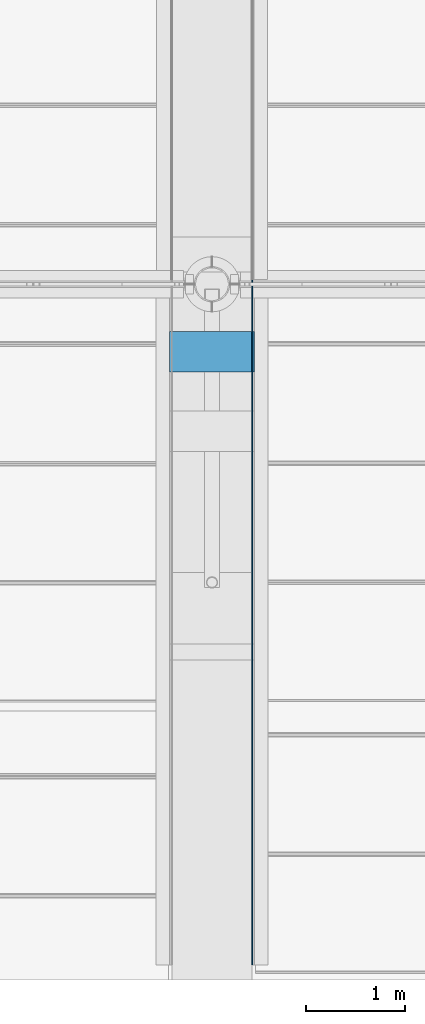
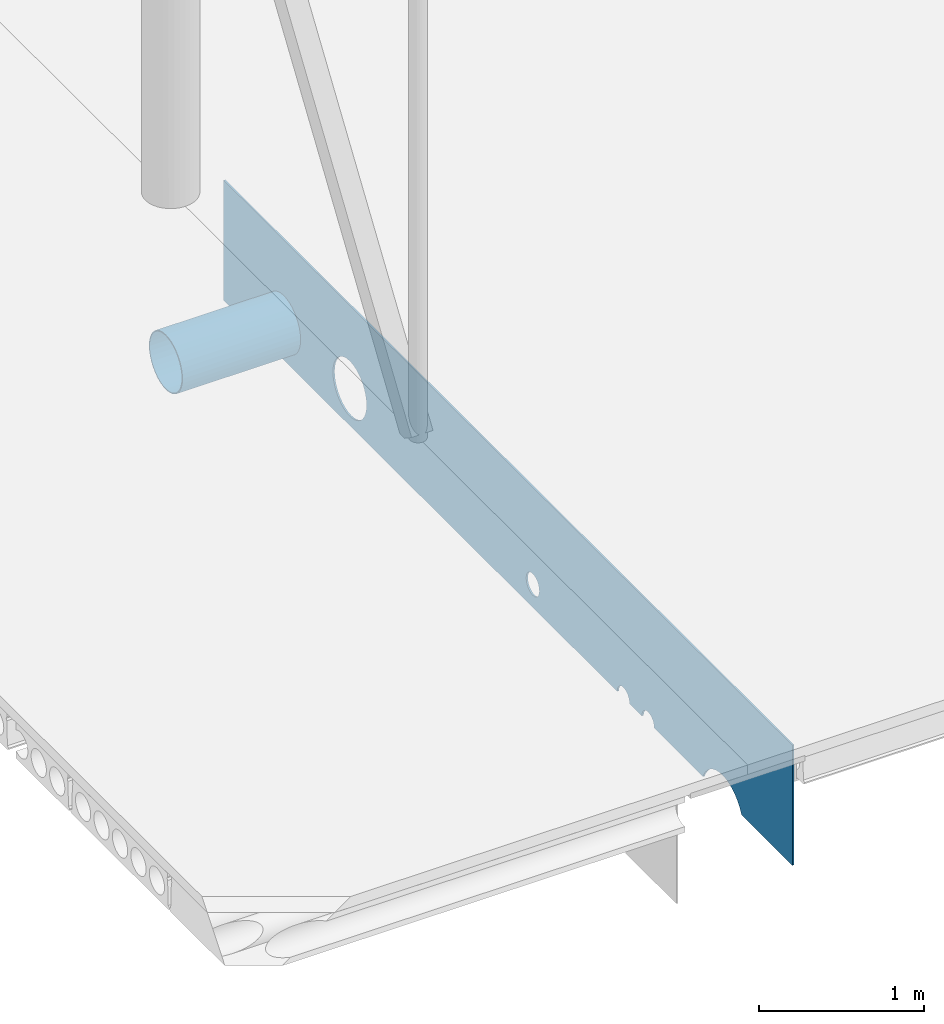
# One storey, part 4 of 21: 2 beams.
"""IFC2X3 building model written with IfcOpenShell, lengths in millimetres."""

from ifc_helpers import new_model, entity, si_unit, converted_unit, derived_unit, direction, frame, origin_with_axes, place, context, subcontext, project, spatial, faceted_brep, material, type_object, element, save


model = new_model("IFC2X3")

# Units and contexts
model_context = context("Model", 3, precision=0.01, world=frame((0.0, 4.29681676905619e-09, 0.0)), true_north=direction((4.01073788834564e-13, 1.0)))
plan_context = context("Plan", 3, precision=0.01, world=frame((0.0, 4.29681676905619e-09, 0.0)), true_north=direction((4.01073788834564e-13, 1.0)))
body_context = subcontext(model_context, "Body", "Model", "MODEL_VIEW")
ifc_project = project(units=[converted_unit("PLANEANGLEUNIT", "DEGREE", entity("IfcPositiveLengthMeasure", 0.0174532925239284), si_unit("PLANEANGLEUNIT", "RADIAN"), dimensions=[0, 0, 0, 0, 0, 0, 0]), si_unit("AREAUNIT", "SQUARE_METRE"), si_unit("LENGTHUNIT", "METRE", prefix="MILLI"), si_unit("MASSUNIT", "GRAM", prefix="KILO"), si_unit("POWERUNIT", "WATT"), si_unit("PRESSUREUNIT", "PASCAL", prefix="KILO"), si_unit("FORCEUNIT", "NEWTON", prefix="KILO"), si_unit("ELECTRICVOLTAGEUNIT", "VOLT"), si_unit("ELECTRICCURRENTUNIT", "AMPERE"), si_unit("THERMODYNAMICTEMPERATUREUNIT", "DEGREE_CELSIUS"), si_unit("TIMEUNIT", "SECOND"), si_unit("VOLUMEUNIT", "CUBIC_METRE"), derived_unit("LINEARVELOCITYUNIT", [(si_unit("LENGTHUNIT", "METRE"), 1), (si_unit("TIMEUNIT", "SECOND"), -1)]), derived_unit("VOLUMETRICFLOWRATEUNIT", [(si_unit("VOLUMEUNIT", "CUBIC_METRE"), 1), (si_unit("TIMEUNIT", "SECOND"), -1)]), derived_unit("THERMALTRANSMITTANCEUNIT", [(si_unit("POWERUNIT", "WATT"), 1), (si_unit("THERMODYNAMICTEMPERATUREUNIT", "KELVIN"), -1), (si_unit("AREAUNIT", "SQUARE_METRE"), -1)]), derived_unit("SOUNDPRESSUREUNIT", [(si_unit("PRESSUREUNIT", "PASCAL"), 1)])], contexts=[model_context, plan_context])

# Site, building, storey
site_placement = place(None, frame((0.0, -4.29681676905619e-09, 0.0), z_axis=(0.0, 0.0, 1.0), x_axis=(1.0, 0.0, 0.0)))
site = spatial("IfcSite", under=ifc_project, at=site_placement, Name="Gardermoen", CompositionType="ELEMENT")
building_placement = place(site_placement, frame((0.0, 4.29681676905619e-09, 0.0), z_axis=(0.0, 0.0, 1.0), x_axis=(1.0, 0.0, 0.0)))
building = spatial("IfcBuilding", under=site, at=building_placement, Name="TS", CompositionType="ELEMENT")
storey_placement = place(building_placement, origin_with_axes())
storey = spatial("IfcBuildingStorey", under=building, at=storey_placement, Name="F", CompositionType="ELEMENT", Elevation=0.0)

# Beams
ifc_material = material(Name="STEEL/S355")
beam_type_1 = type_object("IfcBeamType", Name="RØR406.4X6.3", PredefinedType="NOTDEFINED")
beam_1_placement = place(storey_placement, frame((718427.0, 440820.0, 210175.0), z_axis=(0.0, 0.0, 1.0), x_axis=(-0.999999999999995, -9.99999902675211e-08, 0.0)))
element("IfcBeam", 1, at=beam_1_placement, inside=storey, type_object=beam_type_1, material=ifc_material, Name="STÅLBJELKE", ObjectType="RØR406.4X6.3", context=body_context, shape_type="Brep", body=[
    faceted_brep([(0.0, -196.900000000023, 0.0), (0.0, -193.908646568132, 34.1913261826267), (854.0, -193.908646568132, 34.1913261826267), (854.0, -196.900000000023, 0.0), (0.0, -185.025477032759, 67.3437662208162), (854.0, -185.025477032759, 67.3437662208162), (0.0, -170.520402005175, 98.4500000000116), (854.0, -170.520402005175, 98.4500000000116), (0.0, -150.834150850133, 126.564880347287), (854.0, -150.834150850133, 126.564880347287), (0.0, -126.564880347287, 150.834150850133), (854.0, -126.564880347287, 150.834150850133), (0.0, -98.4500000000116, 170.520402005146), (854.0, -98.4500000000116, 170.520402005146), (0.0, -67.3437662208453, 185.025477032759), (854.0, -67.3437662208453, 185.025477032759), (0.0, -34.1913261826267, 193.908646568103), (854.0, -34.1913261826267, 193.908646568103), (0.0, 0.0, 196.899999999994), (854.0, 0.0, 196.899999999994), (0.0, 34.1913261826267, 193.908646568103), (854.0, 34.1913261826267, 193.908646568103), (0.0, 67.3437662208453, 185.025477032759), (854.0, 67.3437662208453, 185.025477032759), (0.0, 98.4500000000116, 170.520402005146), (854.0, 98.4500000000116, 170.520402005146), (0.0, 126.564880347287, 150.834150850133), (854.0, 126.564880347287, 150.834150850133), (0.0, 150.834150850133, 126.564880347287), (854.0, 150.834150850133, 126.564880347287), (0.0, 170.520402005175, 98.4500000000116), (854.0, 170.520402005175, 98.4500000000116), (0.0, 185.025477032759, 67.3437662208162), (854.0, 185.025477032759, 67.3437662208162), (0.0, 193.908646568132, 34.1913261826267), (854.0, 193.908646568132, 34.1913261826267), (0.0, 196.900000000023, 0.0), (854.0, 196.900000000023, 0.0), (0.0, 193.908646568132, -34.1913261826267), (854.0, 193.908646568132, -34.1913261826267), (0.0, 185.025477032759, -67.3437662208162), (854.0, 185.025477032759, -67.3437662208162), (0.0, 170.520402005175, -98.4500000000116), (854.0, 170.520402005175, -98.4500000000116), (0.0, 150.834150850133, -126.564880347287), (854.0, 150.834150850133, -126.564880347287), (0.0, 126.564880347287, -150.834150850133), (854.0, 126.564880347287, -150.834150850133), (0.0, 98.4500000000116, -170.520402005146), (854.0, 98.4500000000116, -170.520402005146), (0.0, 67.3437662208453, -185.025477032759), (854.0, 67.3437662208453, -185.025477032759), (0.0, 34.1913261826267, -193.908646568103), (854.0, 34.1913261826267, -193.908646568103), (0.0, 0.0, -196.899999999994), (854.0, 0.0, -196.899999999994), (0.0, -34.1913261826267, -193.908646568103), (854.0, -34.1913261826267, -193.908646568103), (0.0, -67.3437662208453, -185.025477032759), (854.0, -67.3437662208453, -185.025477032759), (0.0, -98.4500000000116, -170.520402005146), (854.0, -98.4500000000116, -170.520402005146), (0.0, -126.564880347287, -150.834150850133), (854.0, -126.564880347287, -150.834150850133), (0.0, -150.834150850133, -126.564880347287), (854.0, -150.834150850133, -126.564880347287), (0.0, -170.520402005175, -98.4500000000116), (854.0, -170.520402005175, -98.4500000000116), (0.0, -185.025477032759, -67.3437662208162), (854.0, -185.025477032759, -67.3437662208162), (0.0, -193.908646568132, -34.1913261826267), (854.0, -193.908646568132, -34.1913261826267), (0.0, -203.200000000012, 0.0), (0.0, -200.112935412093, -35.2853097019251), (854.0, -200.112935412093, -35.2853097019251), (854.0, -203.200000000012, 0.0), (0.0, -190.945540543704, -69.4984931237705), (854.0, -190.945540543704, -69.4984931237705), (0.0, -175.976362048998, -101.600000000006), (854.0, -175.976362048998, -101.600000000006), (0.0, -155.660230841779, -130.614442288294), (854.0, -155.660230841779, -130.614442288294), (0.0, -130.614442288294, -155.660230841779), (854.0, -130.614442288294, -155.660230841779), (0.0, -101.599999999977, -175.976362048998), (854.0, -101.599999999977, -175.976362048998), (0.0, -69.4984931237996, -190.945540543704), (854.0, -69.4984931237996, -190.945540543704), (0.0, -35.2853097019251, -200.112935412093), (854.0, -35.2853097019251, -200.112935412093), (0.0, 0.0, -203.200000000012), (854.0, 0.0, -203.200000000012), (0.0, 35.2853097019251, -200.112935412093), (854.0, 35.2853097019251, -200.112935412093), (0.0, 69.4984931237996, -190.945540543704), (854.0, 69.4984931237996, -190.945540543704), (0.0, 101.599999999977, -175.976362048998), (854.0, 101.599999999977, -175.976362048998), (0.0, 130.614442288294, -155.660230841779), (854.0, 130.614442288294, -155.660230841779), (0.0, 155.660230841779, -130.614442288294), (854.0, 155.660230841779, -130.614442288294), (0.0, 175.976362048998, -101.600000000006), (854.0, 175.976362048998, -101.600000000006), (0.0, 190.945540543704, -69.4984931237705), (854.0, 190.945540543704, -69.4984931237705), (0.0, 200.112935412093, -35.2853097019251), (854.0, 200.112935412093, -35.2853097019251), (0.0, 203.200000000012, 0.0), (854.0, 203.200000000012, 0.0), (0.0, 200.112935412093, 35.2853097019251), (854.0, 200.112935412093, 35.2853097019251), (0.0, 190.945540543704, 69.4984931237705), (854.0, 190.945540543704, 69.4984931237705), (0.0, 175.976362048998, 101.600000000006), (854.0, 175.976362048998, 101.600000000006), (0.0, 155.660230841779, 130.614442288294), (854.0, 155.660230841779, 130.614442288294), (0.0, 130.614442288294, 155.660230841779), (854.0, 130.614442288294, 155.660230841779), (0.0, 101.599999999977, 175.976362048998), (854.0, 101.599999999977, 175.976362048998), (0.0, 69.4984931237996, 190.945540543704), (854.0, 69.4984931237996, 190.945540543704), (0.0, 35.2853097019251, 200.112935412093), (854.0, 35.2853097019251, 200.112935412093), (0.0, 0.0, 203.200000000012), (854.0, 0.0, 203.200000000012), (0.0, -35.2853097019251, 200.112935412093), (854.0, -35.2853097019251, 200.112935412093), (0.0, -69.4984931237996, 190.945540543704), (854.0, -69.4984931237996, 190.945540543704), (0.0, -101.599999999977, 175.976362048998), (854.0, -101.599999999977, 175.976362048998), (0.0, -130.614442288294, 155.660230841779), (854.0, -130.614442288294, 155.660230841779), (0.0, -155.660230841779, 130.614442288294), (854.0, -155.660230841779, 130.614442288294), (0.0, -175.976362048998, 101.600000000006), (854.0, -175.976362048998, 101.600000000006), (0.0, -190.945540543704, 69.4984931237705), (854.0, -190.945540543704, 69.4984931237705), (0.0, -200.112935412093, 35.2853097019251), (854.0, -200.112935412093, 35.2853097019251)], [[[0, 1, 2, 3]], [[1, 4, 5, 2]], [[4, 6, 7, 5]], [[6, 8, 9, 7]], [[8, 10, 11, 9]], [[10, 12, 13, 11]], [[12, 14, 15, 13]], [[14, 16, 17, 15]], [[16, 18, 19, 17]], [[18, 20, 21, 19]], [[20, 22, 23, 21]], [[22, 24, 25, 23]], [[24, 26, 27, 25]], [[26, 28, 29, 27]], [[28, 30, 31, 29]], [[30, 32, 33, 31]], [[32, 34, 35, 33]], [[34, 36, 37, 35]], [[36, 38, 39, 37]], [[38, 40, 41, 39]], [[40, 42, 43, 41]], [[42, 44, 45, 43]], [[44, 46, 47, 45]], [[46, 48, 49, 47]], [[48, 50, 51, 49]], [[50, 52, 53, 51]], [[52, 54, 55, 53]], [[54, 56, 57, 55]], [[56, 58, 59, 57]], [[58, 60, 61, 59]], [[60, 62, 63, 61]], [[62, 64, 65, 63]], [[64, 66, 67, 65]], [[66, 68, 69, 67]], [[68, 70, 71, 69]], [[70, 0, 3, 71]], [[72, 73, 74, 75]], [[73, 76, 77, 74]], [[76, 78, 79, 77]], [[78, 80, 81, 79]], [[80, 82, 83, 81]], [[82, 84, 85, 83]], [[84, 86, 87, 85]], [[86, 88, 89, 87]], [[88, 90, 91, 89]], [[90, 92, 93, 91]], [[92, 94, 95, 93]], [[94, 96, 97, 95]], [[96, 98, 99, 97]], [[98, 100, 101, 99]], [[100, 102, 103, 101]], [[102, 104, 105, 103]], [[104, 106, 107, 105]], [[106, 108, 109, 107]], [[108, 110, 111, 109]], [[110, 112, 113, 111]], [[112, 114, 115, 113]], [[114, 116, 117, 115]], [[116, 118, 119, 117]], [[118, 120, 121, 119]], [[120, 122, 123, 121]], [[122, 124, 125, 123]], [[124, 126, 127, 125]], [[126, 128, 129, 127]], [[128, 130, 131, 129]], [[130, 132, 133, 131]], [[132, 134, 135, 133]], [[134, 136, 137, 135]], [[136, 138, 139, 137]], [[138, 140, 141, 139]], [[140, 142, 143, 141]], [[142, 72, 75, 143]], [[77, 79, 81, 83, 85, 87, 89, 91, 93, 95, 97, 99, 101, 103, 105, 107, 109, 111, 113, 115, 117, 119, 121, 123, 125, 127, 129, 131, 133, 135, 137, 139, 141, 143, 75, 74], [5, 7, 9, 11, 13, 15, 17, 19, 21, 23, 25, 27, 29, 31, 33, 35, 37, 39, 41, 43, 45, 47, 49, 51, 53, 55, 57, 59, 61, 63, 65, 67, 69, 71, 3, 2]], [[142, 140, 138, 136, 134, 132, 130, 128, 126, 124, 122, 120, 118, 116, 114, 112, 110, 108, 106, 104, 102, 100, 98, 96, 94, 92, 90, 88, 86, 84, 82, 80, 78, 76, 73, 72], [70, 68, 66, 64, 62, 60, 58, 56, 54, 52, 50, 48, 46, 44, 42, 40, 38, 36, 34, 32, 30, 28, 26, 24, 22, 20, 18, 16, 14, 12, 10, 8, 6, 4, 1, 0]]]),
])
beam_type_2 = type_object("IfcBeamType", Name="1470*12", PredefinedType="NOTDEFINED")
beam_2_placement = place(storey_placement, frame((718406.0, 434650.0, 210055.0), z_axis=(0.0, 0.0, 1.0), x_axis=(0.0, 1.0, 0.0)))
element("IfcBeam", 2, at=beam_2_placement, inside=storey, type_object=beam_type_2, Name="STÅLBJELKE", ObjectType="1470*12", context=body_context, shape_type="Brep", body=[
    faceted_brep([(6361.69729464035, -6.0, 50.2278907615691), (6361.69729464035, 6.0, 50.2278907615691), (6370.90078161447, 6.0, 84.5757717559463), (6370.90078161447, -6.0, 84.5757717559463), (6374.0, 6.0, 120.0), (6374.0, -6.0, 120.0), (6370.90078161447, 6.0, 155.424228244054), (6370.90078161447, -6.0, 155.424228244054), (6361.69729464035, 6.0, 189.772109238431), (6361.69729464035, -6.0, 189.772109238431), (6346.66918237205, 6.0, 222.0), (6346.66918237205, -6.0, 222.0), (6326.27306639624, 6.0, 251.128672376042), (6326.27306639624, -6.0, 251.128672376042), (6301.12867237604, 6.0, 276.273066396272), (6301.12867237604, -6.0, 276.273066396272), (6272.0, 6.0, 296.669182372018), (6272.0, -6.0, 296.669182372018), (6239.77210923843, 6.0, 311.697294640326), (6239.77210923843, -6.0, 311.697294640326), (6205.42422824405, 6.0, 320.900781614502), (6205.42422824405, -6.0, 320.900781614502), (6170.0, 6.0, 324.0), (6170.0, -6.0, 324.0), (6134.57577175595, 6.0, 320.900781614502), (6134.57577175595, -6.0, 320.900781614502), (6100.22789076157, 6.0, 311.697294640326), (6100.22789076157, -6.0, 311.697294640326), (6068.0, 6.0, 296.669182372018), (6068.0, -6.0, 296.669182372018), (6038.87132762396, 6.0, 276.273066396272), (6038.87132762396, -6.0, 276.273066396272), (6013.72693360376, 6.0, 251.128672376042), (6013.72693360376, -6.0, 251.128672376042), (5993.33081762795, 6.0, 222.0), (5993.33081762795, -6.0, 222.0), (5978.30270535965, 6.0, 189.772109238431), (5978.30270535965, -6.0, 189.772109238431), (5969.09921838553, 6.0, 155.424228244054), (5969.09921838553, -6.0, 155.424228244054), (5966.0, 6.0, 120.0), (5966.0, -6.0, 120.0), (5969.09921838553, 6.0, 84.5757717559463), (5969.09921838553, -6.0, 84.5757717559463), (5978.30270535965, 6.0, 50.2278907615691), (5978.30270535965, -6.0, 50.2278907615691), (5993.33081762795, 6.0, 18.0), (5993.33081762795, -6.0, 18.0), (6013.72693360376, 6.0, -11.1286723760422), (6013.72693360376, -6.0, -11.1286723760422), (6038.87132762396, 6.0, -36.273066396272), (6038.87132762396, -6.0, -36.273066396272), (6068.0, 6.0, -56.6691823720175), (6068.0, -6.0, -56.6691823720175), (6100.22789076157, 6.0, -71.6972946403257), (6100.22789076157, -6.0, -71.6972946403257), (6134.57577175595, 6.0, -80.9007816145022), (6134.57577175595, -6.0, -80.9007816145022), (6170.0, 6.0, -84.0), (6170.0, -6.0, -84.0), (6205.42422824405, 6.0, -80.9007816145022), (6205.42422824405, -6.0, -80.9007816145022), (6239.77210923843, 6.0, -71.6972946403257), (6239.77210923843, -6.0, -71.6972946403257), (6272.0, 6.0, -56.6691823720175), (6272.0, -6.0, -56.6691823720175), (6301.12867237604, 6.0, -36.273066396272), (6301.12867237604, -6.0, -36.273066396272), (6326.27306639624, 6.0, -11.1286723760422), (6326.27306639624, -6.0, -11.1286723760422), (6346.66918237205, 6.0, 18.0), (6346.66918237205, -6.0, 18.0), (6900.0, 6.0, 735.0), (6900.0, -6.0, 735.0), (0.0, -6.0, 735.0), (0.0, 6.0, 735.0), (0.0, -6.0, -155.0), (0.0, 6.0, -155.0), (6900.0, 6.0, -155.0), (6900.0, -6.0, -155.0), (616.262191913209, 6.0, -155.0), (616.262191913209, -6.0, -155.0), (622.793336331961, -6.0, -139.23242256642), (622.793336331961, 6.0, -139.23242256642), (643.700666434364, -6.0, -105.114760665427), (643.700666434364, 6.0, -105.114760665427), (669.687770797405, -6.0, -74.6877707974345), (669.687770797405, 6.0, -74.6877707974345), (700.114760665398, -6.0, -48.7006664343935), (700.114760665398, 6.0, -48.7006664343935), (734.232422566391, -6.0, -27.7933363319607), (734.232422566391, 6.0, -27.7933363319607), (771.200666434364, -6.0, -12.4805883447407), (771.200666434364, 6.0, -12.4805883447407), (810.109211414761, -6.0, -3.13947314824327), (810.109211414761, 6.0, -3.13947314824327), (850.0, -6.0, 0.0), (850.0, 6.0, 0.0), (889.890788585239, -6.0, -3.13947314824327), (889.890788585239, 6.0, -3.13947314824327), (928.799333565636, -6.0, -12.4805883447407), (928.799333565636, 6.0, -12.4805883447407), (965.767577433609, -6.0, -27.7933363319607), (965.767577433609, 6.0, -27.7933363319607), (999.885239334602, -6.0, -48.7006664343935), (999.885239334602, 6.0, -48.7006664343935), (1030.31222920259, -6.0, -74.6877707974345), (1030.31222920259, 6.0, -74.6877707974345), (1056.29933356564, -6.0, -105.114760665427), (1056.29933356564, 6.0, -105.114760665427), (1077.20666366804, -6.0, -139.23242256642), (1077.20666366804, 6.0, -139.23242256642), (1083.73780808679, -6.0, -155.0), (1083.73780808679, 6.0, -155.0), (1825.0, -6.0, -155.0), (1825.0, 6.0, -155.0), (1822.44443697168, 6.0, -135.588571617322), (1822.44443697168, -6.0, -135.588571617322), (1677.55556302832, -6.0, -135.588571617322), (1677.55556302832, 6.0, -135.588571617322), (1675.0, 6.0, -155.0), (1675.0, -6.0, -155.0), (1685.04809471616, -6.0, -117.5), (1685.04809471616, 6.0, -117.5), (1696.966991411, -6.0, -101.966991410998), (1696.966991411, 6.0, -101.966991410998), (1712.5, -6.0, -90.0480947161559), (1712.5, 6.0, -90.0480947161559), (1730.58857161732, -6.0, -82.5555630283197), (1730.58857161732, 6.0, -82.5555630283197), (1750.0, -6.0, -80.0), (1750.0, 6.0, -80.0), (1769.41142838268, -6.0, -82.5555630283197), (1769.41142838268, 6.0, -82.5555630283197), (1787.5, -6.0, -90.0480947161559), (1787.5, 6.0, -90.0480947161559), (1803.033008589, -6.0, -101.966991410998), (1803.033008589, 6.0, -101.966991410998), (1814.95190528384, -6.0, -117.5), (1814.95190528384, 6.0, -117.5), (2125.0, -6.0, -155.0), (2125.0, 6.0, -155.0), (2122.44443697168, 6.0, -135.588571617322), (2122.44443697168, -6.0, -135.588571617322), (1977.55556302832, -6.0, -135.588571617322), (1977.55556302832, 6.0, -135.588571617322), (1975.0, 6.0, -155.0), (1975.0, -6.0, -155.0), (1985.04809471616, -6.0, -117.5), (1985.04809471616, 6.0, -117.5), (1996.966991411, -6.0, -101.966991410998), (1996.966991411, 6.0, -101.966991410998), (2012.5, -6.0, -90.0480947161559), (2012.5, 6.0, -90.0480947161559), (2030.58857161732, -6.0, -82.5555630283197), (2030.58857161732, 6.0, -82.5555630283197), (2050.0, -6.0, -80.0), (2050.0, 6.0, -80.0), (2069.41142838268, -6.0, -82.5555630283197), (2069.41142838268, 6.0, -82.5555630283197), (2087.5, -6.0, -90.0480947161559), (2087.5, 6.0, -90.0480947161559), (2103.033008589, -6.0, -101.966991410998), (2103.033008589, 6.0, -101.966991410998), (2114.95190528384, -6.0, -117.5), (2114.95190528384, 6.0, -117.5), (3230.0, -6.0, 15.0), (3230.0, 6.0, 15.0), (3227.2740661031, 6.0, 35.7055236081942), (3227.2740661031, -6.0, 35.7055236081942), (3227.2740661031, -6.0, -5.7055236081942), (3227.2740661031, 6.0, -5.7055236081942), (3219.28203230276, -6.0, -25.0), (3219.28203230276, 6.0, -25.0), (3206.5685424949, -6.0, -41.5685424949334), (3206.5685424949, 6.0, -41.5685424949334), (3190.0, -6.0, -54.2820323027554), (3190.0, 6.0, -54.2820323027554), (3170.70552360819, -6.0, -62.2740661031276), (3170.70552360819, 6.0, -62.2740661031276), (3150.0, -6.0, -65.0), (3150.0, 6.0, -65.0), (3129.29447639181, -6.0, -62.2740661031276), (3129.29447639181, 6.0, -62.2740661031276), (3110.0, -6.0, -54.2820323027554), (3110.0, 6.0, -54.2820323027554), (3093.4314575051, -6.0, -41.5685424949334), (3093.4314575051, 6.0, -41.5685424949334), (3080.71796769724, -6.0, -25.0), (3080.71796769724, 6.0, -25.0), (3072.7259338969, -6.0, -5.7055236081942), (3072.7259338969, 6.0, -5.7055236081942), (3070.0, -6.0, 15.0), (3070.0, 6.0, 15.0), (3072.7259338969, -6.0, 35.7055236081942), (3072.7259338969, 6.0, 35.7055236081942), (3080.71796769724, -6.0, 55.0), (3080.71796769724, 6.0, 55.0), (3093.4314575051, -6.0, 71.5685424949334), (3093.4314575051, 6.0, 71.5685424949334), (3110.0, -6.0, 84.2820323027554), (3110.0, 6.0, 84.2820323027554), (3129.29447639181, -6.0, 92.2740661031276), (3129.29447639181, 6.0, 92.2740661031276), (3150.0, -6.0, 95.0), (3150.0, 6.0, 95.0), (3170.70552360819, -6.0, 92.2740661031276), (3170.70552360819, 6.0, 92.2740661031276), (3190.0, -6.0, 84.2820323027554), (3190.0, 6.0, 84.2820323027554), (3206.5685424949, -6.0, 71.5685424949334), (3206.5685424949, 6.0, 71.5685424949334), (3219.28203230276, -6.0, 55.0), (3219.28203230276, 6.0, 55.0), (5570.90078161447, -6.0, 84.5757717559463), (5574.0, -6.0, 120.0), (5570.90078161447, -6.0, 155.424228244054), (5561.69729464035, -6.0, 189.772109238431), (5546.66918237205, -6.0, 222.0), (5526.27306639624, -6.0, 251.128672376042), (5501.12867237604, -6.0, 276.273066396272), (5472.0, -6.0, 296.669182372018), (5439.77210923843, -6.0, 311.697294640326), (5405.42422824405, -6.0, 320.900781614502), (5370.0, -6.0, 324.0), (5334.57577175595, -6.0, 320.900781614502), (5300.22789076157, -6.0, 311.697294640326), (5268.0, -6.0, 296.669182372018), (5238.87132762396, -6.0, 276.273066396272), (5213.72693360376, -6.0, 251.128672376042), (5193.33081762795, -6.0, 222.0), (5178.30270535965, -6.0, 189.772109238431), (5169.09921838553, -6.0, 155.424228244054), (5166.0, -6.0, 120.0), (5169.09921838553, -6.0, 84.5757717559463), (5178.30270535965, -6.0, 50.2278907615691), (5193.33081762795, -6.0, 18.0), (5213.72693360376, -6.0, -11.1286723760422), (5238.87132762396, -6.0, -36.273066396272), (5268.0, -6.0, -56.6691823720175), (5300.22789076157, -6.0, -71.6972946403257), (5334.57577175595, -6.0, -80.9007816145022), (5370.0, -6.0, -84.0), (5405.42422824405, -6.0, -80.9007816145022), (5439.77210923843, -6.0, -71.6972946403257), (5472.0, -6.0, -56.6691823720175), (5501.12867237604, -6.0, -36.273066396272), (5526.27306639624, -6.0, -11.1286723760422), (5546.66918237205, -6.0, 18.0), (5561.69729464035, -6.0, 50.2278907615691), (5570.90078161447, 6.0, 155.424228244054), (5561.69729464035, 6.0, 189.772109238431), (5574.0, 6.0, 120.0), (5570.90078161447, 6.0, 84.5757717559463), (5561.69729464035, 6.0, 50.2278907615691), (5546.66918237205, 6.0, 18.0), (5526.27306639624, 6.0, -11.1286723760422), (5501.12867237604, 6.0, -36.273066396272), (5472.0, 6.0, -56.6691823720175), (5439.77210923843, 6.0, -71.6972946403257), (5405.42422824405, 6.0, -80.9007816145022), (5370.0, 6.0, -84.0), (5334.57577175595, 6.0, -80.9007816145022), (5300.22789076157, 6.0, -71.6972946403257), (5268.0, 6.0, -56.6691823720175), (5238.87132762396, 6.0, -36.273066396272), (5213.72693360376, 6.0, -11.1286723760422), (5193.33081762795, 6.0, 18.0), (5178.30270535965, 6.0, 50.2278907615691), (5169.09921838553, 6.0, 84.5757717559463), (5166.0, 6.0, 120.0), (5169.09921838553, 6.0, 155.424228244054), (5178.30270535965, 6.0, 189.772109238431), (5193.33081762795, 6.0, 222.0), (5213.72693360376, 6.0, 251.128672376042), (5238.87132762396, 6.0, 276.273066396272), (5268.0, 6.0, 296.669182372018), (5300.22789076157, 6.0, 311.697294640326), (5334.57577175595, 6.0, 320.900781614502), (5370.0, 6.0, 324.0), (5405.42422824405, 6.0, 320.900781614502), (5439.77210923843, 6.0, 311.697294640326), (5472.0, 6.0, 296.669182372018), (5501.12867237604, 6.0, 276.273066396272), (5526.27306639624, 6.0, 251.128672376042), (5546.66918237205, 6.0, 222.0)], [[[0, 1, 2, 3]], [[3, 2, 4, 5]], [[5, 4, 6, 7]], [[7, 6, 8, 9]], [[9, 8, 10, 11]], [[11, 10, 12, 13]], [[13, 12, 14, 15]], [[15, 14, 16, 17]], [[17, 16, 18, 19]], [[19, 18, 20, 21]], [[21, 20, 22, 23]], [[23, 22, 24, 25]], [[25, 24, 26, 27]], [[27, 26, 28, 29]], [[29, 28, 30, 31]], [[31, 30, 32, 33]], [[33, 32, 34, 35]], [[35, 34, 36, 37]], [[37, 36, 38, 39]], [[39, 38, 40, 41]], [[41, 40, 42, 43]], [[43, 42, 44, 45]], [[45, 44, 46, 47]], [[47, 46, 48, 49]], [[49, 48, 50, 51]], [[51, 50, 52, 53]], [[53, 52, 54, 55]], [[55, 54, 56, 57]], [[57, 56, 58, 59]], [[59, 58, 60, 61]], [[61, 60, 62, 63]], [[63, 62, 64, 65]], [[65, 64, 66, 67]], [[67, 66, 68, 69]], [[69, 68, 70, 71]], [[71, 70, 1, 0]], [[72, 73, 74, 75]], [[76, 77, 75, 74]], [[78, 79, 73, 72]], [[80, 81, 82, 83]], [[84, 85, 83, 82]], [[86, 87, 85, 84]], [[88, 89, 87, 86]], [[90, 91, 89, 88]], [[92, 93, 91, 90]], [[94, 95, 93, 92]], [[96, 97, 95, 94]], [[98, 99, 97, 96]], [[100, 101, 99, 98]], [[102, 103, 101, 100]], [[104, 105, 103, 102]], [[106, 107, 105, 104]], [[108, 109, 107, 106]], [[110, 111, 109, 108]], [[112, 113, 111, 110]], [[114, 115, 116, 117]], [[118, 119, 120, 121]], [[122, 123, 119, 118]], [[124, 125, 123, 122]], [[126, 127, 125, 124]], [[128, 129, 127, 126]], [[130, 131, 129, 128]], [[132, 133, 131, 130]], [[134, 135, 133, 132]], [[136, 137, 135, 134]], [[138, 139, 137, 136]], [[117, 116, 139, 138]], [[140, 141, 142, 143]], [[144, 145, 146, 147]], [[148, 149, 145, 144]], [[150, 151, 149, 148]], [[152, 153, 151, 150]], [[154, 155, 153, 152]], [[156, 157, 155, 154]], [[158, 159, 157, 156]], [[160, 161, 159, 158]], [[162, 163, 161, 160]], [[164, 165, 163, 162]], [[143, 142, 165, 164]], [[166, 167, 168, 169]], [[170, 171, 167, 166]], [[172, 173, 171, 170]], [[174, 175, 173, 172]], [[176, 177, 175, 174]], [[178, 179, 177, 176]], [[180, 181, 179, 178]], [[182, 183, 181, 180]], [[184, 185, 183, 182]], [[186, 187, 185, 184]], [[188, 189, 187, 186]], [[190, 191, 189, 188]], [[192, 193, 191, 190]], [[194, 195, 193, 192]], [[196, 197, 195, 194]], [[198, 199, 197, 196]], [[200, 201, 199, 198]], [[202, 203, 201, 200]], [[204, 205, 203, 202]], [[206, 207, 205, 204]], [[208, 209, 207, 206]], [[210, 211, 209, 208]], [[212, 213, 211, 210]], [[169, 168, 213, 212]], [[79, 140, 143, 164, 162, 160, 158, 156, 154, 152, 150, 148, 144, 147, 114, 117, 138, 136, 134, 132, 130, 128, 126, 124, 122, 118, 121, 112, 110, 108, 106, 104, 102, 100, 98, 96, 94, 92, 90, 88, 86, 84, 82, 81, 76, 74, 73], [3, 5, 7, 9, 11, 13, 15, 17, 19, 21, 23, 25, 27, 29, 31, 33, 35, 37, 39, 41, 43, 45, 47, 49, 51, 53, 55, 57, 59, 61, 63, 65, 67, 69, 71, 0], [214, 215, 216, 217, 218, 219, 220, 221, 222, 223, 224, 225, 226, 227, 228, 229, 230, 231, 232, 233, 234, 235, 236, 237, 238, 239, 240, 241, 242, 243, 244, 245, 246, 247, 248, 249], [170, 166, 169, 212, 210, 208, 206, 204, 202, 200, 198, 196, 194, 192, 190, 188, 186, 184, 182, 180, 178, 176, 174, 172]], [[216, 250, 251, 217]], [[215, 252, 250, 216]], [[214, 253, 252, 215]], [[249, 254, 253, 214]], [[248, 255, 254, 249]], [[247, 256, 255, 248]], [[246, 257, 256, 247]], [[245, 258, 257, 246]], [[244, 259, 258, 245]], [[243, 260, 259, 244]], [[242, 261, 260, 243]], [[241, 262, 261, 242]], [[240, 263, 262, 241]], [[239, 264, 263, 240]], [[238, 265, 264, 239]], [[237, 266, 265, 238]], [[236, 267, 266, 237]], [[235, 268, 267, 236]], [[234, 269, 268, 235]], [[233, 270, 269, 234]], [[232, 271, 270, 233]], [[231, 272, 271, 232]], [[230, 273, 272, 231]], [[229, 274, 273, 230]], [[228, 275, 274, 229]], [[227, 276, 275, 228]], [[226, 277, 276, 227]], [[225, 278, 277, 226]], [[224, 279, 278, 225]], [[223, 280, 279, 224]], [[222, 281, 280, 223]], [[221, 282, 281, 222]], [[220, 283, 282, 221]], [[219, 284, 283, 220]], [[218, 285, 284, 219]], [[217, 251, 285, 218]], [[77, 80, 83, 85, 87, 89, 91, 93, 95, 97, 99, 101, 103, 105, 107, 109, 111, 113, 120, 119, 123, 125, 127, 129, 131, 133, 135, 137, 139, 116, 115, 146, 145, 149, 151, 153, 155, 157, 159, 161, 163, 165, 142, 141, 78, 72, 75], [6, 4, 2, 1, 70, 68, 66, 64, 62, 60, 58, 56, 54, 52, 50, 48, 46, 44, 42, 40, 38, 36, 34, 32, 30, 28, 26, 24, 22, 20, 18, 16, 14, 12, 10, 8], [250, 252, 253, 254, 255, 256, 257, 258, 259, 260, 261, 262, 263, 264, 265, 266, 267, 268, 269, 270, 271, 272, 273, 274, 275, 276, 277, 278, 279, 280, 281, 282, 283, 284, 285, 251], [168, 167, 171, 173, 175, 177, 179, 181, 183, 185, 187, 189, 191, 193, 195, 197, 199, 201, 203, 205, 207, 209, 211, 213]], [[81, 80, 77, 76]], [[141, 140, 79, 78]], [[121, 120, 113, 112]], [[147, 146, 115, 114]]], orient=[[False], [False], [False], [False], [False], [False], [False], [False], [False], [False], [False], [False], [False], [False], [False], [False], [False], [False], [False], [False], [False], [False], [False], [False], [False], [False], [False], [False], [False], [False], [False], [False], [False], [False], [False], [False], [False], [False], [False], [False], [False], [False], [False], [False], [False], [False], [False], [False], [False], [False], [False], [False], [False], [False], [False], [False], [False], [False], [False], [False], [False], [False], [False], [False], [False], [False], [False], [False], [False], [False], [False], [False], [False], [False], [False], [False], [False], [False], [False], [False], [False], [False], [False], [False], [False], [False], [False], [False], [False], [False], [False], [False], [False], [False], [False], [False], [False], [False], [False], [False], [False], [False], [False], [False, False, False, False], [False], [False], [False], [False], [False], [False], [False], [False], [False], [False], [False], [False], [False], [False], [False], [False], [False], [False], [False], [False], [False], [False], [False], [False], [False], [False], [False], [False], [False], [False], [False], [False], [False], [False], [False], [False], [False, False, False, False], [False], [False], [False], [False]]),
])

save(model, "model.ifc")
